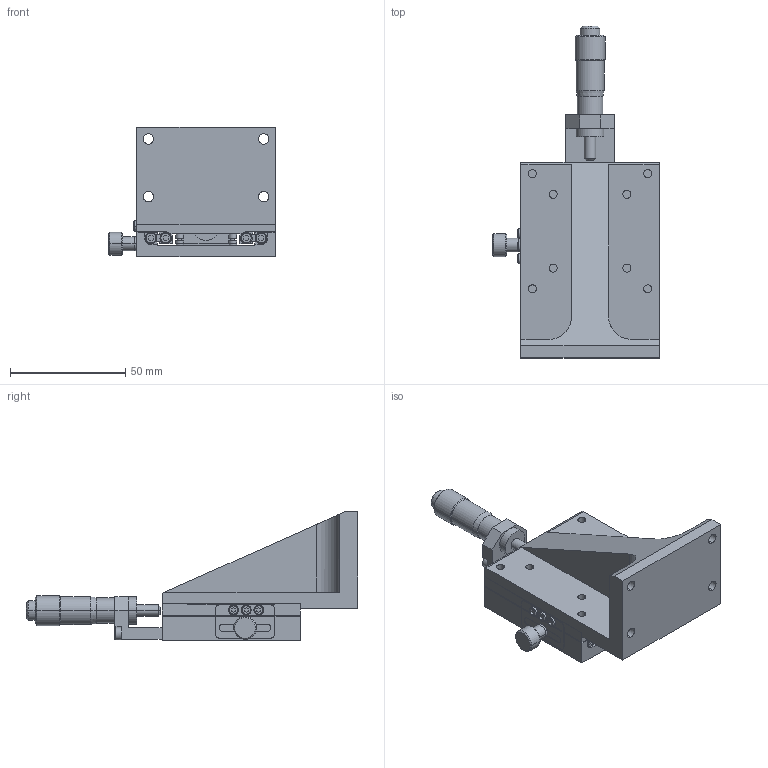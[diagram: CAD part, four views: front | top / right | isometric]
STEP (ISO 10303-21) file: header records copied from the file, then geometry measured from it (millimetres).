
FILE_DESCRIPTION (( 'STEP AP203' ), '1' );
FILE_NAME ('MZL60-SCR.STEP', '2008-08-02T04:55:24', ( '陳志豪' ), ( '高明鐵企業股份有限公司' ), 'SwSTEP 2.0', 'SolidWorks 2007', '' );
FILE_SCHEMA (( 'CONFIG_CONTROL_DESIGN' ));
Length unit declared in the file: millimetre
Products named in the file (1): MZL60-SCR
Bounding box: 72.2 x 144 x 56 mm (x, y, z)
Volume: 120806.8 mm3; surface area: 44632.2 mm2
Topology: 6 solids, 6 shells, 856 faces, 2231 edges, 1447 vertices
Faces by surface type: plane 482, cylinder 210, bspline 110, cone 54
Entity records: 32165 total; most frequent: CARTESIAN_POINT 11295, ORIENTED_EDGE 4438, DIRECTION 4042, EDGE_CURVE 2219, VERTEX_POINT 1447, VECTOR 1446, LINE 1446, AXIS2_PLACEMENT_3D 1298
